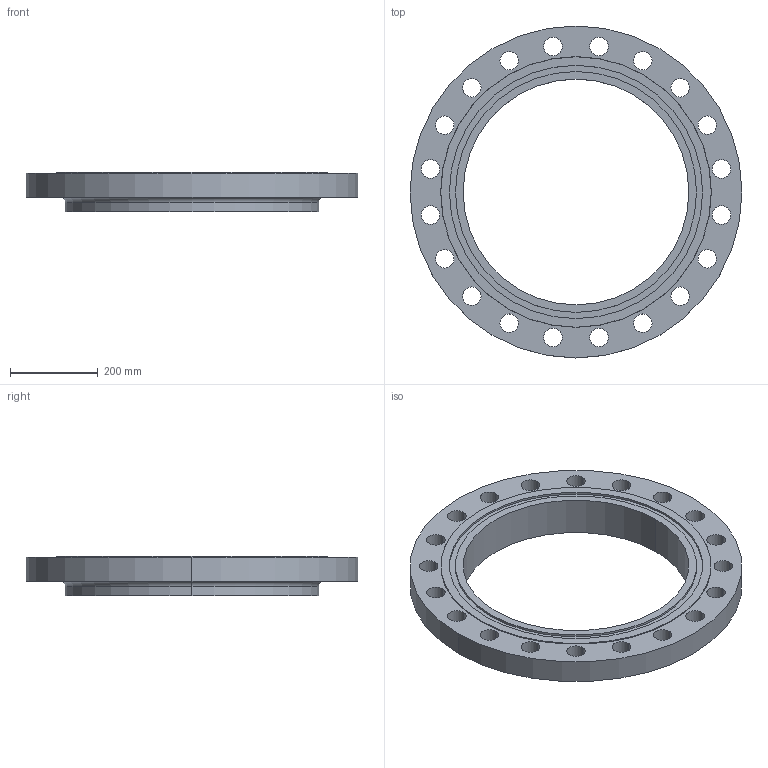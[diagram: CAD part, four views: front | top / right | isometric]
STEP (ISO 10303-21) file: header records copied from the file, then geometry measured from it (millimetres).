
FILE_DESCRIPTION (( 'STEP AP214' ), '1' );
FILE_NAME ('PN40 DN500 Type 12 - Type D Face.STEP', '2018-12-29T01:24:46', ( '' ), ( '' ), 'SwSTEP 2.0', 'SolidWorks 2019', '' );
FILE_SCHEMA (( 'AUTOMOTIVE_DESIGN' ));
Length unit declared in the file: millimetre
Products named in the file (1): PN40 DN500 Type 12 - Type D Face
Bounding box: 755 x 755 x 90 mm (x, y, z)
Volume: 13587388.8 mm3; surface area: 917928.7 mm2
Topology: 1 solids, 1 shells, 60 faces, 160 edges, 106 vertices
Faces by surface type: cylinder 50, plane 6, torus 2, cone 2
Entity records: 2054 total; most frequent: DIRECTION 390, CARTESIAN_POINT 327, ORIENTED_EDGE 320, AXIS2_PLACEMENT_3D 169, EDGE_CURVE 160, CIRCLE 108, EDGE_LOOP 106, VERTEX_POINT 106
